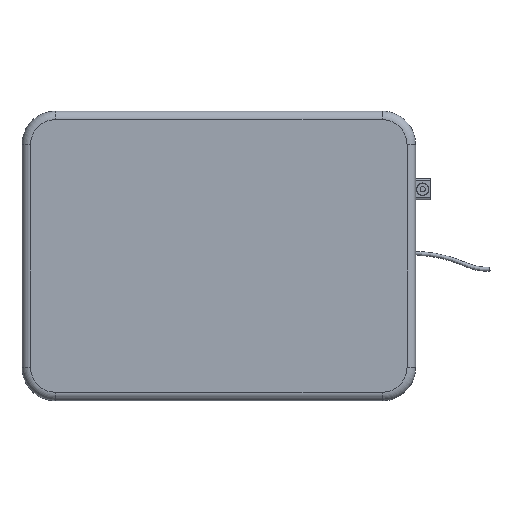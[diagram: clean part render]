
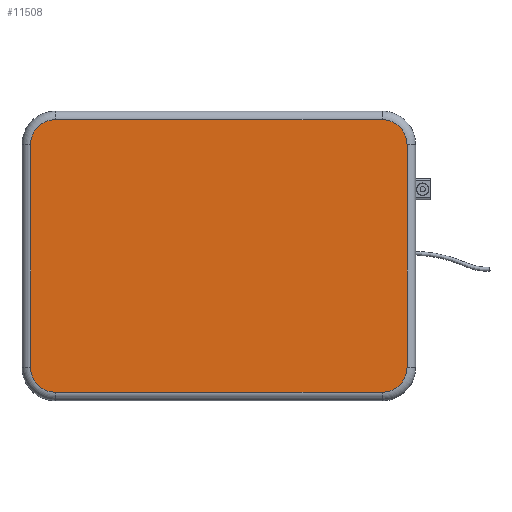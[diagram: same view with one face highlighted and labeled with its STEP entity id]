
A CAD part, top view. The second image highlights one B-rep face of the part: STEP entity #11508.
In plain terms, the highlighted planar face has unit normal (0, 0, 1).
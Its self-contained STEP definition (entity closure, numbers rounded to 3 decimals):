
#345=CIRCLE('',#12089,33.5);
#349=CIRCLE('',#12096,33.5);
#353=CIRCLE('',#12101,33.5);
#357=CIRCLE('',#12108,33.5);
#1129=ORIENTED_EDGE('',*,*,#3309,.T.);
#1130=ORIENTED_EDGE('',*,*,#3303,.T.);
#1131=ORIENTED_EDGE('',*,*,#3305,.T.);
#1132=ORIENTED_EDGE('',*,*,#3311,.T.);
#1133=ORIENTED_EDGE('',*,*,#3317,.T.);
#1134=ORIENTED_EDGE('',*,*,#3323,.T.);
#1135=ORIENTED_EDGE('',*,*,#3321,.T.);
#1136=ORIENTED_EDGE('',*,*,#3315,.T.);
#3303=EDGE_CURVE('',#4413,#4416,#345,.T.);
#3305=EDGE_CURVE('',#4416,#4418,#5160,.T.);
#3309=EDGE_CURVE('',#4419,#4413,#5163,.T.);
#3311=EDGE_CURVE('',#4418,#4422,#349,.T.);
#3315=EDGE_CURVE('',#4423,#4419,#353,.T.);
#3317=EDGE_CURVE('',#4422,#4426,#5164,.T.);
#3321=EDGE_CURVE('',#4427,#4423,#5167,.T.);
#3323=EDGE_CURVE('',#4426,#4427,#357,.T.);
#4413=VERTEX_POINT('',#15930);
#4416=VERTEX_POINT('',#15935);
#4418=VERTEX_POINT('',#15940);
#4419=VERTEX_POINT('',#15945);
#4422=VERTEX_POINT('',#15952);
#4423=VERTEX_POINT('',#15957);
#4426=VERTEX_POINT('',#15964);
#4427=VERTEX_POINT('',#15969);
#5160=LINE('',#15941,#6024);
#5163=LINE('',#15948,#6027);
#5164=LINE('',#15965,#6028);
#5167=LINE('',#15972,#6031);
#6024=VECTOR('',#13331,1000.);
#6027=VECTOR('',#13338,1000.);
#6028=VECTOR('',#13359,1000.);
#6031=VECTOR('',#13366,1000.);
#6709=EDGE_LOOP('',(#1129,#1130,#1131,#1132,#1133,#1134,#1135,#1136));
#7288=FACE_BOUND('',#6709,.T.);
#7791=PLANE('',#12113);
#11508=ADVANCED_FACE('',(#7288),#7791,.T.);
#12089=AXIS2_PLACEMENT_3D('',#15936,#13325,#13326);
#12096=AXIS2_PLACEMENT_3D('',#15953,#13343,#13344);
#12101=AXIS2_PLACEMENT_3D('',#15960,#13353,#13354);
#12108=AXIS2_PLACEMENT_3D('',#15975,#13371,#13372);
#12113=AXIS2_PLACEMENT_3D('',#15988,#13389,#13390);
#13325=DIRECTION('',(0.,0.,1.));
#13326=DIRECTION('',(1.,0.,0.));
#13331=DIRECTION('',(-1.,0.,0.));
#13338=DIRECTION('',(0.,1.,0.));
#13343=DIRECTION('',(0.,0.,1.));
#13344=DIRECTION('',(1.,0.,0.));
#13353=DIRECTION('',(0.,0.,1.));
#13354=DIRECTION('',(1.,0.,0.));
#13359=DIRECTION('',(0.,-1.,0.));
#13366=DIRECTION('',(1.,0.,0.));
#13371=DIRECTION('',(0.,0.,1.));
#13372=DIRECTION('',(1.,0.,0.));
#13389=DIRECTION('',(0.,0.,1.));
#13390=DIRECTION('',(1.,0.,0.));
#15930=CARTESIAN_POINT('',(253.5,150.,62.25));
#15935=CARTESIAN_POINT('',(220.,183.5,62.25));
#15936=CARTESIAN_POINT('',(220.,150.,62.25));
#15940=CARTESIAN_POINT('',(-220.,183.5,62.25));
#15941=CARTESIAN_POINT('',(-265.,183.5,62.25));
#15945=CARTESIAN_POINT('',(253.5,-150.,62.25));
#15948=CARTESIAN_POINT('',(253.5,-195.,62.25));
#15952=CARTESIAN_POINT('',(-253.5,150.,62.25));
#15953=CARTESIAN_POINT('',(-220.,150.,62.25));
#15957=CARTESIAN_POINT('',(220.,-183.5,62.25));
#15960=CARTESIAN_POINT('',(220.,-150.,62.25));
#15964=CARTESIAN_POINT('',(-253.5,-150.,62.25));
#15965=CARTESIAN_POINT('',(-253.5,-195.,62.25));
#15969=CARTESIAN_POINT('',(-220.,-183.5,62.25));
#15972=CARTESIAN_POINT('',(-265.,-183.5,62.25));
#15975=CARTESIAN_POINT('',(-220.,-150.,62.25));
#15988=CARTESIAN_POINT('',(-265.,-195.,62.25));
